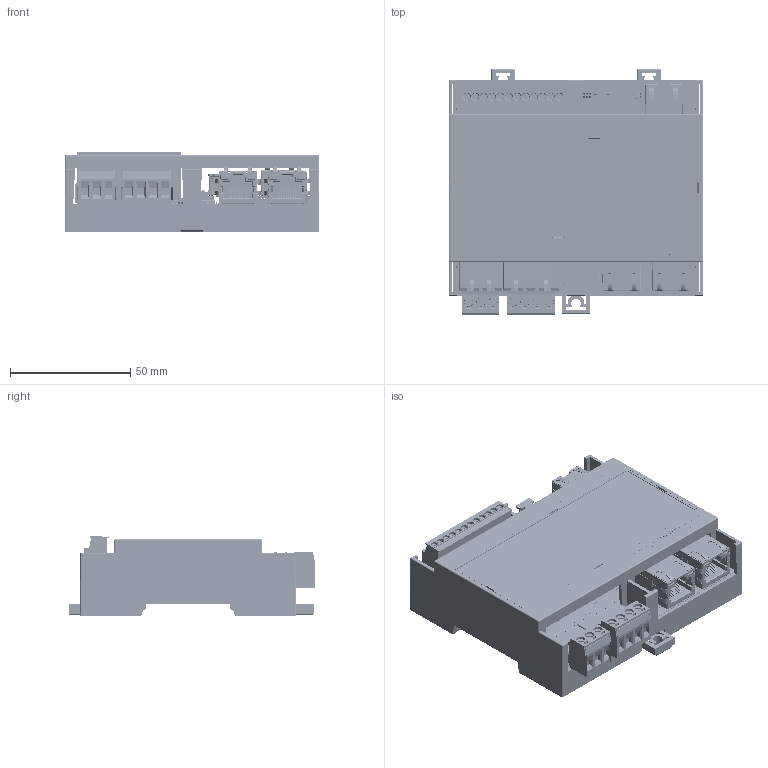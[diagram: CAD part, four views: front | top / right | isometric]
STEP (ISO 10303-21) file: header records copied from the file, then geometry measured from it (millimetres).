
FILE_DESCRIPTION(/* description */ (''),/* implementation_level */ '2;1');
FILE_NAME(/* name */ 'C201B.step',/* time_stamp */ '2023-02-16T17:36:29+01:00',/* author */ (''),/* organization */ (''),/* preprocessor_version */ 'ST-DEVELOPER v19.2',/* originating_system */ 'Autodesk Translation Framework v11.17.0.187',/* authorisation */ '');
FILE_SCHEMA (('AUTOMOTIVE_DESIGN { 1 0 10303 214 3 1 1 }'));
Products named in the file (107): C201B; CASE; 00022731; 00006744; 00006713; 00006714; 00006841; TEXT v8; C201B v40; Board (1); Packages (1); CONM12; CHIP-LED0603_Y; User Library-LED_0603_G_Pocket002 (2); User Library-LED_0603_G_Pad004 (2); User Library-LED_0603_G_Fillet (2); User Library-LED_0603_G_Pocket001 (2); User Library-LED_0603_G_Pad (2); BGA244C80P18X18_1500X1500X155; BUTTON; Frame; Cover; Stem; Terminal; QFP144; SD_CONN; 5033981892; ETH_CONN; Insulator; Insulator (2); Insulator (1); shielding; STRIP_M23; M50-350-MLD; M50-360-CONTACT; STRIP-F23; _CLP-103-2-F-D-BE_terminal; _C-106-22-103-BE_Pin; STRIP-F25; _CLP-105-2-F-D-BE_terminal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
Assembly tree (168 placements, depth 6):
  C201B
    CASE
      00022731
      00006744
      00006713
      00006714  x2
      00006841
      TEXT v8
    C201B v40
      Board (1)
      Packages (1)
        CONM12
        CHIP-LED0603_Y
          User Library-LED_0603_G_Pocket002 (2)
          User Library-LED_0603_G_Pad004 (2)
          User Library-LED_0603_G_Fillet (2)
          User Library-LED_0603_G_Pocket001 (2)
          User Library-LED_0603_G_Pad (2)
        BGA244C80P18X18_1500X1500X155
        BUTTON
          Frame
          Cover
          Stem
          Terminal  x4
        QFP144
        SD_CONN
          5033981892
        ETH_CONN  x2
          Insulator
          Insulator (2)
          Insulator (1)
          shielding
        STRIP_M23  x2
          M50-350-MLD
          M50-360-CONTACT
        STRIP-F23  x2
          _CLP-103-2-F-D-BE_terminal
          _C-106-22-103-BE_Pin
        STRIP-F25  x3
          _CLP-105-2-F-D-BE_terminal
          _C-106-22-105-BE_Pin
        CONM3
          Bohrloch  x3
          CC_2  x3
          CCA-2.5-G-5
        CONM4
          CC_2.5-LH-Stift  x4
          CCA-2.5-4-G-5
          Bohrloch (1)  x4
        CHIP-LED0603_G  x5
          User Library-LED_0603_G_Pocket002
          User Library-LED_0603_G_Pad004
          User Library-LED_0603_G_Fillet
          User Library-LED_0603_G_Pocket001
          User Library-LED_0603_G_Pad
        CHIP-LED0603_R  x3
          User Library-LED_0603_G_Pocket002 (1)
          User Library-LED_0603_G_Pad004 (1)
          User Library-LED_0603_G_Fillet (1)
          User Library-LED_0603_G_Pocket001 (1)
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Bounding box: 106.2 x 102.53 x 33.25 mm (x, y, z)
Volume: 85611 mm3; surface area: 128333.2 mm2
Topology: 387 solids, 479 shells, 22070 faces, 60173 edges, 39188 vertices
Faces by surface type: plane 16059, cylinder 4518, bspline 912, sphere 443, cone 73, torus 65
Full cylindrical faces by diameter (mm): 0.08 x10, 0.203 x172, 0.3 x5, 0.4 x1, 0.406 x867, 0.5 x1, 0.75 x2, 0.889 x2, 1 x1, 1.016 x1, 1.02 x6, 1.2 x2, 1.397 x24, 1.5 x3, 1.524 x19, 1.6 x21, 2 x3, 2.032 x12, 2.794 x12, 2.8 x2, 3 x2, 3.048 x7, 3.81 x7, 5.5 x2
Entity records: 592953 total; most frequent: CARTESIAN_POINT 124125, ORIENTED_EDGE 97404, DIRECTION 90030, EDGE_CURVE 48897, LINE 38470, VECTOR 38470, VERTEX_POINT 32355, AXIS2_PLACEMENT_3D 25780
